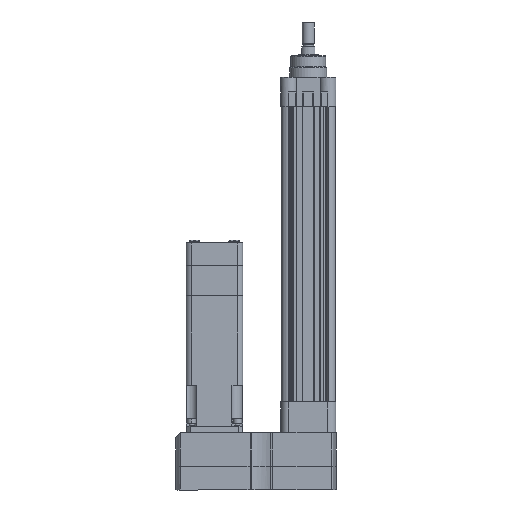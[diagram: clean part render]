
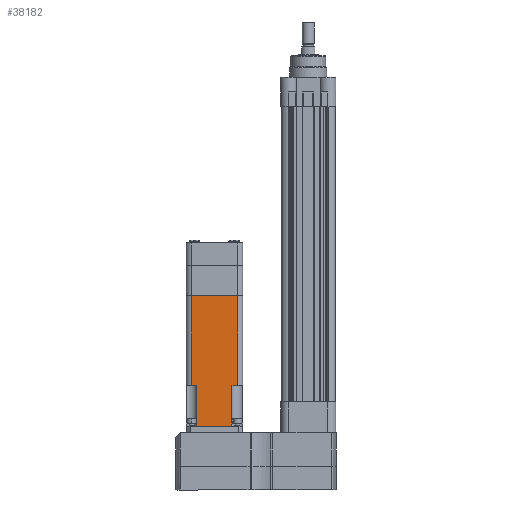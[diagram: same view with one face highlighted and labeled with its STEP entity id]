
A CAD part, front view. The second image highlights one B-rep face of the part: STEP entity #38182.
In plain terms, the highlighted planar face has unit normal (0, -1, 0).
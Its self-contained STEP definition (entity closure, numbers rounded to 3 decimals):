
#403 = EDGE_CURVE ( 'NONE', #15393, #828, #37370, .T. ) ;
#828 = VERTEX_POINT ( 'NONE', #36003 ) ;
#2387 = FACE_OUTER_BOUND ( 'NONE', #28759, .T. ) ;
#2585 = EDGE_CURVE ( 'NONE', #12846, #828, #7972, .T. ) ;
#4069 = LINE ( 'NONE', #21364, #41317 ) ;
#5002 = VECTOR ( 'NONE', #35922, 1000. ) ;
#5085 = DIRECTION ( 'NONE',  ( 0., 0., 1. ) ) ;
#5249 = CARTESIAN_POINT ( 'NONE',  ( -6.401, -27.559, -17.084 ) ) ;
#5450 = AXIS2_PLACEMENT_3D ( 'NONE', #19781, #45006, #23417 ) ;
#6537 = LINE ( 'NONE', #15010, #33073 ) ;
#7417 = VECTOR ( 'NONE', #21974, 1000. ) ;
#7972 = LINE ( 'NONE', #8310, #9115 ) ;
#8310 = CARTESIAN_POINT ( 'NONE',  ( -45.898, -27.559, -17.084 ) ) ;
#8726 = CARTESIAN_POINT ( 'NONE',  ( -6.401, -27.559, 17.084 ) ) ;
#8776 = ORIENTED_EDGE ( 'NONE', *, *, #34408, .F. ) ;
#9115 = VECTOR ( 'NONE', #33571, 1000. ) ;
#9222 = ORIENTED_EDGE ( 'NONE', *, *, #403, .T. ) ;
#9904 = CARTESIAN_POINT ( 'NONE',  ( -133.604, -27.559, -22.479 ) ) ;
#10485 = CARTESIAN_POINT ( 'NONE',  ( -133.604, -27.559, 22.479 ) ) ;
#12846 = VERTEX_POINT ( 'NONE', #5249 ) ;
#13294 = VECTOR ( 'NONE', #22613, 1000. ) ;
#14078 = VERTEX_POINT ( 'NONE', #10485 ) ;
#15010 = CARTESIAN_POINT ( 'NONE',  ( -45.898, -27.559, 27.559 ) ) ;
#15393 = VERTEX_POINT ( 'NONE', #34990 ) ;
#18339 = CARTESIAN_POINT ( 'NONE',  ( -45.898, -27.559, 27.559 ) ) ;
#18412 = VERTEX_POINT ( 'NONE', #18652 ) ;
#18476 = DIRECTION ( 'NONE',  ( 0., 0., 1. ) ) ;
#18652 = CARTESIAN_POINT ( 'NONE',  ( -45.898, -27.559, 22.479 ) ) ;
#19781 = CARTESIAN_POINT ( 'NONE',  ( -133.604, -27.559, 27.559 ) ) ;
#21364 = CARTESIAN_POINT ( 'NONE',  ( -133.604, -27.559, -22.479 ) ) ;
#21941 = ORIENTED_EDGE ( 'NONE', *, *, #34777, .T. ) ;
#21974 = DIRECTION ( 'NONE',  ( 0., 0., 1. ) ) ;
#22613 = DIRECTION ( 'NONE',  ( 1., 0., 0. ) ) ;
#22841 = CARTESIAN_POINT ( 'NONE',  ( -45.898, -27.559, 17.084 ) ) ;
#23243 = ORIENTED_EDGE ( 'NONE', *, *, #2585, .F. ) ;
#23417 = DIRECTION ( 'NONE',  ( 0., 0., 1. ) ) ;
#23921 = LINE ( 'NONE', #43164, #31293 ) ;
#24191 = LINE ( 'NONE', #42815, #5002 ) ;
#24256 = EDGE_CURVE ( 'NONE', #18412, #14078, #24191, .T. ) ;
#25157 = ORIENTED_EDGE ( 'NONE', *, *, #34975, .F. ) ;
#25193 = VECTOR ( 'NONE', #5085, 1000. ) ;
#26890 = PLANE ( 'NONE',  #5450 ) ;
#28759 = EDGE_LOOP ( 'NONE', ( #8776, #36793, #9222, #23243, #37004, #25157, #21941, #30083 ) ) ;
#28809 = DIRECTION ( 'NONE',  ( 0., 0., 1. ) ) ;
#30083 = ORIENTED_EDGE ( 'NONE', *, *, #24256, .T. ) ;
#30346 = CARTESIAN_POINT ( 'NONE',  ( -133.604, -27.559, 27.559 ) ) ;
#31293 = VECTOR ( 'NONE', #28809, 1000. ) ;
#31926 = VERTEX_POINT ( 'NONE', #8726 ) ;
#32254 = DIRECTION ( 'NONE',  ( 1., 0., 0. ) ) ;
#32498 = LINE ( 'NONE', #36828, #13294 ) ;
#33073 = VECTOR ( 'NONE', #18476, 1000. ) ;
#33350 = VERTEX_POINT ( 'NONE', #9904 ) ;
#33571 = DIRECTION ( 'NONE',  ( -1., 0., 0. ) ) ;
#33737 = VERTEX_POINT ( 'NONE', #22841 ) ;
#34408 = EDGE_CURVE ( 'NONE', #33350, #14078, #44367, .T. ) ;
#34777 = EDGE_CURVE ( 'NONE', #33737, #18412, #6537, .T. ) ;
#34975 = EDGE_CURVE ( 'NONE', #33737, #31926, #32498, .T. ) ;
#34990 = CARTESIAN_POINT ( 'NONE',  ( -45.898, -27.559, -22.479 ) ) ;
#35922 = DIRECTION ( 'NONE',  ( -1., 0., 0. ) ) ;
#36003 = CARTESIAN_POINT ( 'NONE',  ( -45.898, -27.559, -17.084 ) ) ;
#36793 = ORIENTED_EDGE ( 'NONE', *, *, #38429, .T. ) ;
#36828 = CARTESIAN_POINT ( 'NONE',  ( -45.898, -27.559, 17.084 ) ) ;
#37004 = ORIENTED_EDGE ( 'NONE', *, *, #44358, .T. ) ;
#37370 = LINE ( 'NONE', #18339, #7417 ) ;
#38182 = ADVANCED_FACE ( 'NONE', ( #2387 ), #26890, .F. ) ;
#38429 = EDGE_CURVE ( 'NONE', #33350, #15393, #4069, .T. ) ;
#41317 = VECTOR ( 'NONE', #32254, 1000. ) ;
#42815 = CARTESIAN_POINT ( 'NONE',  ( -133.604, -27.559, 22.479 ) ) ;
#43164 = CARTESIAN_POINT ( 'NONE',  ( -6.401, -27.559, 27.559 ) ) ;
#44358 = EDGE_CURVE ( 'NONE', #12846, #31926, #23921, .T. ) ;
#44367 = LINE ( 'NONE', #30346, #25193 ) ;
#45006 = DIRECTION ( 'NONE',  ( 0., 1., 0. ) ) ;
